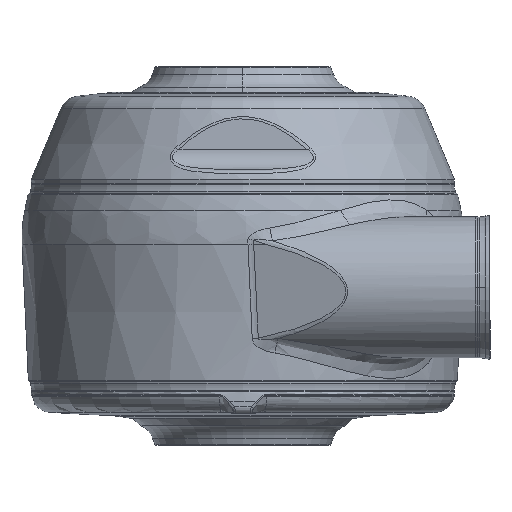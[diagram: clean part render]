
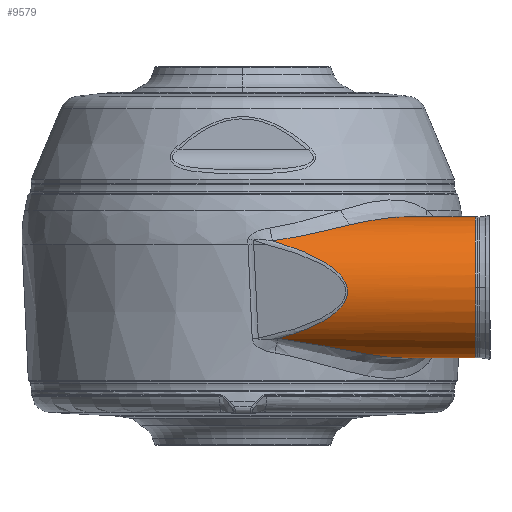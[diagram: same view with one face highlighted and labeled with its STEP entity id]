
A CAD part, left-side view. The second image highlights one B-rep face of the part: STEP entity #9579.
In plain terms, the highlighted cylindrical face has radius 10.5 mm (diameter 21 mm), a partial arc.
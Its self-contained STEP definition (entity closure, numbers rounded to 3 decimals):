
#449 = CARTESIAN_POINT ( 'NONE',  ( -28.631, -19.062, -10.031 ) ) ;
#810 = EDGE_CURVE ( 'NONE', #7084, #6724, #12332, .T. ) ;
#1371 = CARTESIAN_POINT ( 'NONE',  ( -32.804, -8.431, 7.573 ) ) ;
#1928 = DIRECTION ( 'NONE',  ( 0., 0., 1. ) ) ;
#2457 = CARTESIAN_POINT ( 'NONE',  ( -25.5, -36.5, -10.5 ) ) ;
#2746 = CARTESIAN_POINT ( 'NONE',  ( -25.5, -36.5, 10.5 ) ) ;
#2911 = CARTESIAN_POINT ( 'NONE',  ( -32.731, -5.263, -7.614 ) ) ;
#3124 = CARTESIAN_POINT ( 'NONE',  ( -31.08, -14.202, 8.904 ) ) ;
#3458 = CARTESIAN_POINT ( 'NONE',  ( -26.009, -23.499, -10.5 ) ) ;
#3543 = CARTESIAN_POINT ( 'NONE',  ( -27.405, -21.312, -10.336 ) ) ;
#3711 = ORIENTED_EDGE ( 'NONE', *, *, #15463, .T. ) ;
#3861 = DIRECTION ( 'NONE',  ( 1., 0., 0. ) ) ;
#4083 = ORIENTED_EDGE ( 'NONE', *, *, #11980, .T. ) ;
#4121 = CARTESIAN_POINT ( 'NONE',  ( -25.5, -34.6, 0. ) ) ;
#4840 = DIRECTION ( 'NONE',  ( 0., 1., 0. ) ) ;
#5144 = VERTEX_POINT ( 'NONE', #18128 ) ;
#5202 = VECTOR ( 'NONE', #8459, 1000. ) ;
#5256 = LINE ( 'NONE', #2457, #10019 ) ;
#5535 = CARTESIAN_POINT ( 'NONE',  ( -25.5, -24.37, 10.5 ) ) ;
#5544 = CARTESIAN_POINT ( 'NONE',  ( -37.064, -20.138, -3.499 ) ) ;
#5691 = CARTESIAN_POINT ( 'NONE',  ( -36., -34.6, 0. ) ) ;
#6256 = CARTESIAN_POINT ( 'NONE',  ( -30.925, -13.561, -9.015 ) ) ;
#6304 = B_SPLINE_CURVE_WITH_KNOTS ( 'NONE', 3,
 ( #8474, #14260, #3124, #12846, #11613, #1371, #13119, #17374 ),
 .UNSPECIFIED., .F., .F.,
 ( 4, 2, 2, 4 ),
 ( 0.025, 0.028, 0.031, 0.037 ),
 .UNSPECIFIED. ) ;
#6562 = CARTESIAN_POINT ( 'NONE',  ( -27.344, -21.702, 10.37 ) ) ;
#6724 = VERTEX_POINT ( 'NONE', #12283 ) ;
#7084 = VERTEX_POINT ( 'NONE', #5691 ) ;
#7107 = CARTESIAN_POINT ( 'NONE',  ( -32.731, -5.263, -7.614 ) ) ;
#7852 = CARTESIAN_POINT ( 'NONE',  ( -29.703, -16.744, -9.63 ) ) ;
#7911 = VERTEX_POINT ( 'NONE', #5535 ) ;
#8200 = B_SPLINE_CURVE_WITH_KNOTS ( 'NONE', 3,
 ( #7107, #12885, #16182, #17709, #6256, #16460, #7852, #16369, #449, #12023, #3543, #10589, #3458, #14948 ),
 .UNSPECIFIED., .F., .F.,
 ( 4, 2, 2, 2, 2, 2, 4 ),
 ( 0., 0.005, 0.01, 0.013, 0.015, 0.018, 0.021 ),
 .UNSPECIFIED. ) ;
#8272 = DIRECTION ( 'NONE',  ( 0., 1., 0. ) ) ;
#8459 = DIRECTION ( 'NONE',  ( 0., 1., 0. ) ) ;
#8474 = CARTESIAN_POINT ( 'NONE',  ( -30.308, -16.047, 9.335 ) ) ;
#8661 = AXIS2_PLACEMENT_3D ( 'NONE', #16775, #8272, #3861 ) ;
#9002 = EDGE_CURVE ( 'NONE', #5144, #16850, #5256, .T. ) ;
#9044 = ORIENTED_EDGE ( 'NONE', *, *, #9002, .F. ) ;
#9062 = CARTESIAN_POINT ( 'NONE',  ( -25.5, -36.5, 0. ) ) ;
#9579 = ADVANCED_FACE ( 'NONE', ( #10754 ), #16535, .T. ) ;
#9703 = EDGE_CURVE ( 'NONE', #6724, #7911, #15636, .T. ) ;
#9838 = DIRECTION ( 'NONE',  ( 0., 1., 0. ) ) ;
#10008 = EDGE_CURVE ( 'NONE', #18001, #16850, #8200, .T. ) ;
#10019 = VECTOR ( 'NONE', #18489, 1000. ) ;
#10589 = CARTESIAN_POINT ( 'NONE',  ( -26.495, -22.775, -10.463 ) ) ;
#10754 = FACE_OUTER_BOUND ( 'NONE', #10932, .T. ) ;
#10918 = AXIS2_PLACEMENT_3D ( 'NONE', #9062, #4840, #1928 ) ;
#10932 = EDGE_LOOP ( 'NONE', ( #9044, #4083, #17317, #15020, #11837, #3711, #18593, #17569 ) ) ;
#11085 = B_SPLINE_CURVE_WITH_KNOTS ( 'NONE', 3,
 ( #13759, #17924, #6562, #12250, #13562, #12435 ),
 .UNSPECIFIED., .F., .F.,
 ( 4, 2, 4 ),
 ( 0.007, 0.012, 0.017 ),
 .UNSPECIFIED. ) ;
#11595 = CARTESIAN_POINT ( 'NONE',  ( -25.5, -24.199, -10.5 ) ) ;
#11613 = CARTESIAN_POINT ( 'NONE',  ( -32.038, -11.348, 8.223 ) ) ;
#11837 = ORIENTED_EDGE ( 'NONE', *, *, #11901, .T. ) ;
#11901 = EDGE_CURVE ( 'NONE', #7911, #12403, #11085, .T. ) ;
#11980 = EDGE_CURVE ( 'NONE', #5144, #7084, #16907, .T. ) ;
#12023 = CARTESIAN_POINT ( 'NONE',  ( -27.831, -20.57, -10.246 ) ) ;
#12128 = CARTESIAN_POINT ( 'NONE',  ( -33.37, -4.407, 6.95 ) ) ;
#12250 = CARTESIAN_POINT ( 'NONE',  ( -28.943, -18.93, 9.954 ) ) ;
#12283 = CARTESIAN_POINT ( 'NONE',  ( -25.5, -34.6, 10.5 ) ) ;
#12332 = CIRCLE ( 'NONE', #8661, 10.5 ) ;
#12403 = VERTEX_POINT ( 'NONE', #16466 ) ;
#12435 = CARTESIAN_POINT ( 'NONE',  ( -30.308, -16.047, 9.335 ) ) ;
#12696 = AXIS2_PLACEMENT_3D ( 'NONE', #4121, #9838, #15609 ) ;
#12846 = CARTESIAN_POINT ( 'NONE',  ( -31.743, -12.312, 8.452 ) ) ;
#12885 = CARTESIAN_POINT ( 'NONE',  ( -32.524, -6.975, -7.81 ) ) ;
#13119 = CARTESIAN_POINT ( 'NONE',  ( -33.16, -6.447, 7.189 ) ) ;
#13492 = VERTEX_POINT ( 'NONE', #12128 ) ;
#13562 = CARTESIAN_POINT ( 'NONE',  ( -29.664, -17.508, 9.666 ) ) ;
#13759 = CARTESIAN_POINT ( 'NONE',  ( -25.5, -24.37, 10.5 ) ) ;
#14067 =( BOUNDED_CURVE ( )  B_SPLINE_CURVE ( 3, ( #18500, #15826, #5544, #2911 ),
 .UNSPECIFIED., .F., .T. ) 
 B_SPLINE_CURVE_WITH_KNOTS ( ( 4, 4 ),
 ( 2.358, 3.893 ),
 .UNSPECIFIED. ) 
 CURVE ( )  GEOMETRIC_REPRESENTATION_ITEM ( )  RATIONAL_B_SPLINE_CURVE ( ( 1., 0.813, 0.813, 1. ) ) 
 REPRESENTATION_ITEM ( '' )  );
#14260 = CARTESIAN_POINT ( 'NONE',  ( -30.712, -15.131, 9.126 ) ) ;
#14948 = CARTESIAN_POINT ( 'NONE',  ( -25.5, -24.199, -10.5 ) ) ;
#15020 = ORIENTED_EDGE ( 'NONE', *, *, #9703, .T. ) ;
#15463 = EDGE_CURVE ( 'NONE', #12403, #13492, #6304, .T. ) ;
#15609 = DIRECTION ( 'NONE',  ( 1., 0., 0. ) ) ;
#15636 = LINE ( 'NONE', #2746, #5202 ) ;
#15826 = CARTESIAN_POINT ( 'NONE',  ( -37.326, -19.786, 2.471 ) ) ;
#16182 = CARTESIAN_POINT ( 'NONE',  ( -32.22, -8.65, -8.084 ) ) ;
#16369 = CARTESIAN_POINT ( 'NONE',  ( -29.005, -18.297, -9.905 ) ) ;
#16460 = CARTESIAN_POINT ( 'NONE',  ( -30.027, -15.955, -9.48 ) ) ;
#16466 = CARTESIAN_POINT ( 'NONE',  ( -30.308, -16.047, 9.335 ) ) ;
#16526 = CARTESIAN_POINT ( 'NONE',  ( -32.731, -5.263, -7.614 ) ) ;
#16535 = CYLINDRICAL_SURFACE ( 'NONE', #10918, 10.5 ) ;
#16775 = CARTESIAN_POINT ( 'NONE',  ( -25.5, -34.6, 0. ) ) ;
#16850 = VERTEX_POINT ( 'NONE', #11595 ) ;
#16907 = CIRCLE ( 'NONE', #12696, 10.5 ) ;
#17317 = ORIENTED_EDGE ( 'NONE', *, *, #810, .T. ) ;
#17374 = CARTESIAN_POINT ( 'NONE',  ( -33.37, -4.407, 6.95 ) ) ;
#17569 = ORIENTED_EDGE ( 'NONE', *, *, #10008, .T. ) ;
#17709 = CARTESIAN_POINT ( 'NONE',  ( -31.42, -11.943, -8.686 ) ) ;
#17718 = EDGE_CURVE ( 'NONE', #13492, #18001, #14067, .T. ) ;
#17924 = CARTESIAN_POINT ( 'NONE',  ( -26.465, -23.053, 10.5 ) ) ;
#18001 = VERTEX_POINT ( 'NONE', #16526 ) ;
#18128 = CARTESIAN_POINT ( 'NONE',  ( -25.5, -34.6, -10.5 ) ) ;
#18489 = DIRECTION ( 'NONE',  ( 0., 1., 0. ) ) ;
#18500 = CARTESIAN_POINT ( 'NONE',  ( -33.37, -4.407, 6.95 ) ) ;
#18593 = ORIENTED_EDGE ( 'NONE', *, *, #17718, .T. ) ;
